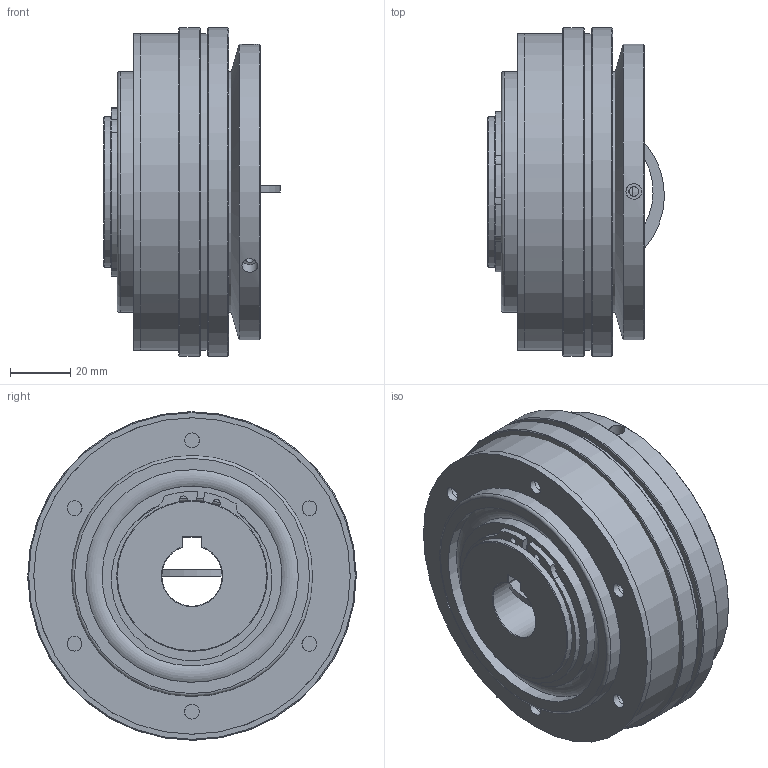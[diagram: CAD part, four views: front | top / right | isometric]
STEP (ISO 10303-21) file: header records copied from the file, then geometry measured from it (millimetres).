
FILE_DESCRIPTION( ( 'Unknown' ), '1' );
FILE_NAME( 'C:/Dokumente und Einstellungen/Sven/Desktop/hp kbk/KBK L-P-200.stp', 'Unknown', ( 'Unknown' ), ( 'Unknown' ), 'XStep 1.0', 'Unknown', ' ' );
FILE_SCHEMA( ( 'automotive_design' ) );
Length unit declared in the file: millimetre
Products named in the file (10): Assem1; Assem2; ball_bearing_-_6010_0_01; ball_bearing_-_6010_0_02; ball_bearing_-_6010_0_03; KBK L-P-200 Grundkörper; Stellring 200; Druckring 200; Flansch 200; a_50
Bounding box: 58.64 x 109 x 109 mm (x, y, z)
Volume: 697507.8 mm3; surface area: 232563.3 mm2
Topology: 19 solids, 19 shells, 251 faces, 510 edges, 325 vertices
Faces by surface type: cylinder 102, plane 92, cone 32, torus 25
Full cylindrical faces by diameter (mm): 2.5 x4, 3.242 x6, 4.917 x12, 5.2 x12, 47 x2, 50 x7, 59.7 x6, 62 x2, 66 x4, 70.6 x6, 72 x2, 77 x2, 80 x5, 90 x2, 98 x2, 105 x4, 109 x2
Entity records: 3165 total; most frequent: CARTESIAN_POINT 755, DIRECTION 522, ORIENTED_EDGE 316, AXIS2_PLACEMENT_3D 243, EDGE_LOOP 216, FACE_OUTER_BOUND 161, EDGE_CURVE 158, VERTEX_POINT 134
